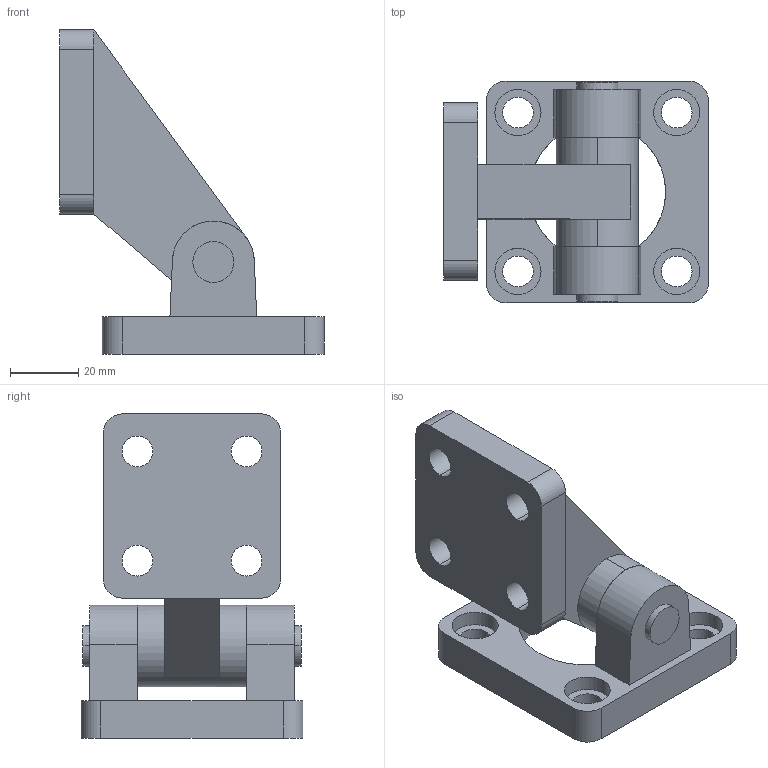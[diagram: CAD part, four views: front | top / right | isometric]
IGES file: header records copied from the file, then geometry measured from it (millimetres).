
Global section: file name: No Iges File Name specified; native system: AutoDesk Inventor R11.0; preprocessor: AutoDesk Inventor Iges Exporter R11.0; author: No Author specified; organization: No Organization specified; date: 20060712.122502; units: millimetre
Bounding box: 77.5 x 65 x 95 mm (x, y, z)
Volume: 107614.3 mm3; surface area: 31630.5 mm2
Topology: 2 solids, 2 shells, 81 faces, 207 edges, 136 vertices
Faces by surface type: bspline 34, plane 29, cylinder 18
